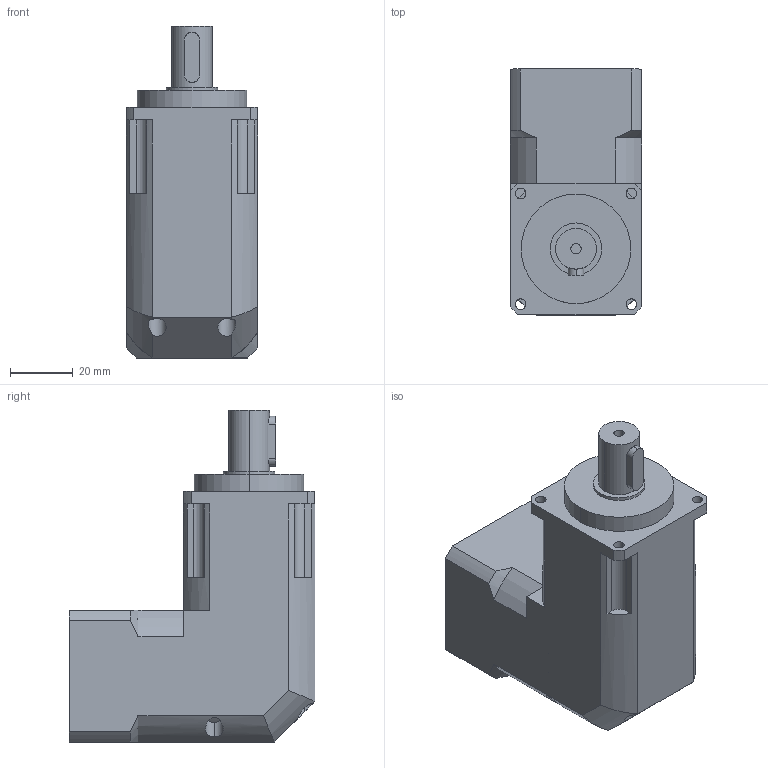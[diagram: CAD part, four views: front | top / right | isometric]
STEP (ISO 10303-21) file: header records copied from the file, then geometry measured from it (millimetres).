
FILE_DESCRIPTION (( 'STEP AP203' ), '1' );
FILE_NAME ('ABR042-L1-8-30-46-M4.STEP', '2023-09-18T09:12:27', ( '' ), ( '' ), 'SwSTEP 2.0', 'SolidWorks 2014', '' );
FILE_SCHEMA (( 'CONFIG_CONTROL_DESIGN' ));
Length unit declared in the file: millimetre
Products named in the file (1): ABR042-L1-8-30-46-M4
Bounding box: 42 x 78.5 x 106 mm (x, y, z)
Volume: 191261.3 mm3; surface area: 26774.6 mm2
Topology: 1 solids, 11 shells, 170 faces, 399 edges, 258 vertices
Faces by surface type: cylinder 100, plane 59, cone 11
Entity records: 5423 total; most frequent: CARTESIAN_POINT 1432, DIRECTION 842, ORIENTED_EDGE 784, EDGE_CURVE 392, AXIS2_PLACEMENT_3D 332, VERTEX_POINT 258, EDGE_LOOP 192, LINE 178
